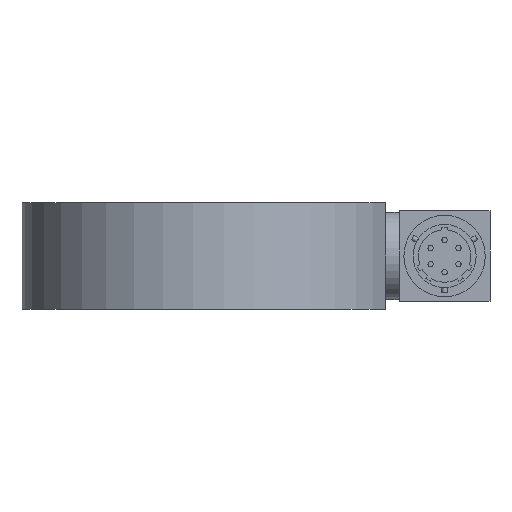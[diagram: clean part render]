
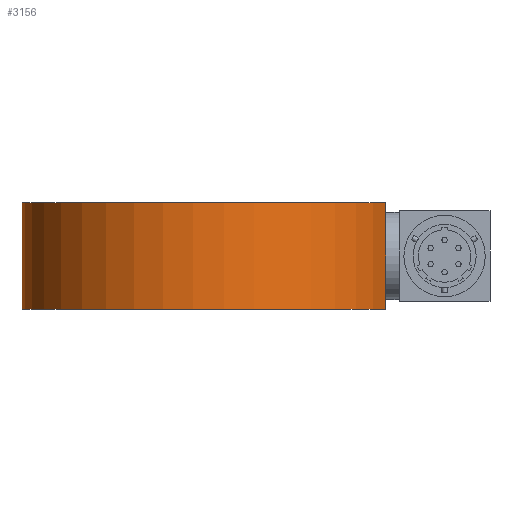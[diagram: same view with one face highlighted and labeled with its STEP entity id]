
A CAD part, front view. The second image highlights one B-rep face of the part: STEP entity #3156.
In plain terms, the highlighted cylindrical face has radius 44.45 mm (diameter 88.9 mm), a partial arc.
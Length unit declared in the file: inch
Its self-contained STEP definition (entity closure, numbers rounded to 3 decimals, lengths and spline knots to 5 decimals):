
#97 = EDGE_CURVE ( 'NONE', #155, #2921, #1072, .T. ) ;
#125 = ORIENTED_EDGE ( 'NONE', *, *, #97, .T. ) ;
#155 = VERTEX_POINT ( 'NONE', #1505 ) ;
#175 = EDGE_CURVE ( 'NONE', #239, #155, #1665, .T. ) ;
#199 = ORIENTED_EDGE ( 'NONE', *, *, #175, .T. ) ;
#239 = VERTEX_POINT ( 'NONE', #2130 ) ;
#253 = EDGE_CURVE ( 'NONE', #2699, #239, #2256, .T. ) ;
#299 = ORIENTED_EDGE ( 'NONE', *, *, #253, .T. ) ;
#1072 = LINE ( 'NONE', #1073, #1074 ) ;
#1073 = CARTESIAN_POINT ( 'NONE',  ( 1.652, -0.5774, 0. ) ) ;
#1074 = VECTOR ( 'NONE', #1075, 39.37008 ) ;
#1075 = DIRECTION ( 'NONE',  ( 0., 0., 1. ) ) ;
#1308 = CARTESIAN_POINT ( 'NONE',  ( -1.75, 0., 0.995 ) ) ;
#1402 = CARTESIAN_POINT ( 'NONE',  ( 1.652, -0.5774, 0.995 ) ) ;
#1505 = CARTESIAN_POINT ( 'NONE',  ( 1.652, -0.5774, 0. ) ) ;
#1523 = CIRCLE ( 'NONE', #1524, 1.75 ) ;
#1524 = AXIS2_PLACEMENT_3D ( 'NONE', #1525, #1526, #1527 ) ;
#1525 = CARTESIAN_POINT ( 'NONE',  ( 0., 0., 0.995 ) ) ;
#1526 = DIRECTION ( 'NONE',  ( 0., 0., -1. ) ) ;
#1527 = DIRECTION ( 'NONE',  ( -1., 0., 0. ) ) ;
#1665 = CIRCLE ( 'NONE', #1669, 1.75 ) ;
#1669 = AXIS2_PLACEMENT_3D ( 'NONE', #1670, #1671, #1672 ) ;
#1670 = CARTESIAN_POINT ( 'NONE',  ( 0., 0., 0. ) ) ;
#1671 = DIRECTION ( 'NONE',  ( 0., 0., 1. ) ) ;
#1672 = DIRECTION ( 'NONE',  ( -1., 0., 0. ) ) ;
#2130 = CARTESIAN_POINT ( 'NONE',  ( -1.75, 0., 0. ) ) ;
#2256 = LINE ( 'NONE', #2257, #2258 ) ;
#2257 = CARTESIAN_POINT ( 'NONE',  ( -1.75, 0., 0.995 ) ) ;
#2258 = VECTOR ( 'NONE', #2259, 39.37008 ) ;
#2259 = DIRECTION ( 'NONE',  ( 0., 0., -1. ) ) ;
#2267 = FACE_OUTER_BOUND ( 'NONE', #3134, .T. ) ;
#2268 = CYLINDRICAL_SURFACE ( 'NONE', #2269, 1.75 ) ;
#2269 = AXIS2_PLACEMENT_3D ( 'NONE', #2270, #2271, #2272 ) ;
#2270 = CARTESIAN_POINT ( 'NONE',  ( 0., 0., 0.995 ) ) ;
#2271 = DIRECTION ( 'NONE',  ( 0., 0., -1. ) ) ;
#2272 = DIRECTION ( 'NONE',  ( -1., 0., 0. ) ) ;
#2699 = VERTEX_POINT ( 'NONE', #1308 ) ;
#2921 = VERTEX_POINT ( 'NONE', #1402 ) ;
#2980 = EDGE_CURVE ( 'NONE', #2921, #2699, #1523, .T. ) ;
#3030 = ORIENTED_EDGE ( 'NONE', *, *, #2980, .T. ) ;
#3134 = EDGE_LOOP ( 'NONE', ( #3030, #299, #199, #125 ) ) ;
#3156 = ADVANCED_FACE ( 'NONE', ( #2267 ), #2268, .T. ) ;
